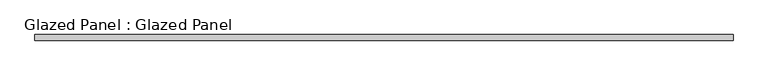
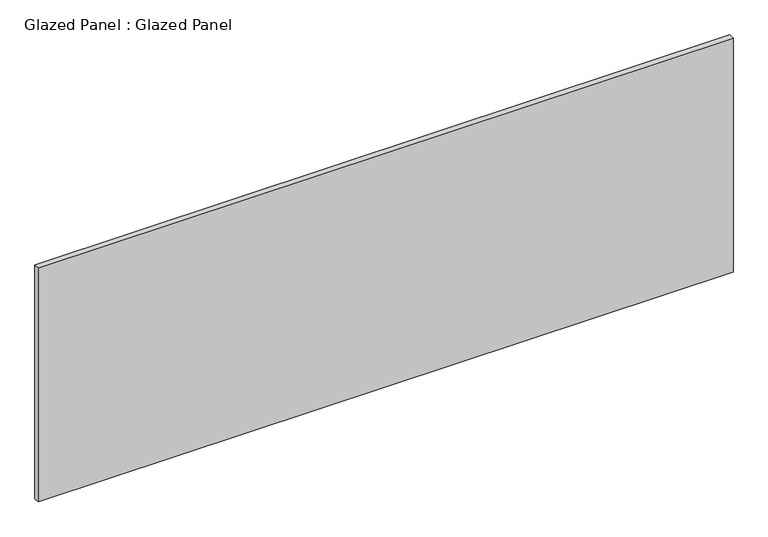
"""IFC4 building model written with IfcOpenShell, lengths in millimetres: plate geometry, Glazed Panel : Glazed Panel."""

from ifc_helpers import new_model, si_unit, origin, origin_with_axes, place, context, project, spatial, polyline, outline, extrude, source, transform, mapped, element, save


def glazed_panel_glazed_panel_424e5e11(model_context):
    return source(origin(), model_context, "Body", "SweptSolid", [
        extrude(outline(polyline([(1577.998125, 38.1), (-1577.998125, 38.1), (-1577.998125, 63.5), (1577.998125, 63.5), (1577.998125, 38.1)])), origin_with_axes(), (0.0, 0.0, 1.0), 1123.95),
    ])


if __name__ == "__main__":
    model = new_model("IFC4")
    model_context = context("Model", 3, world=origin())
    ifc_project = project(units=[si_unit("LENGTHUNIT", "METRE", prefix="MILLI")], contexts=[model_context])
    site = spatial("IfcSite", under=ifc_project)
    building = spatial("IfcBuilding", under=site)
    placement = place(None, origin())
    glazed_panel_glazed_panel_shape = glazed_panel_glazed_panel_424e5e11(model_context)
    element("IfcPlate", 1, ObjectType="Glazed Panel : Glazed Panel", at=placement, inside=building, context=model_context, shape_type="MappedRepresentation", body=[
        mapped(glazed_panel_glazed_panel_shape, transform((0.0, 0.0, 0.0), x_axis=(1.0, 0.0, 0.0), y_axis=(0.0, 1.0, 0.0), z_axis=(0.0, 0.0, 1.0))),
    ])
    save(model, "model.ifc")
